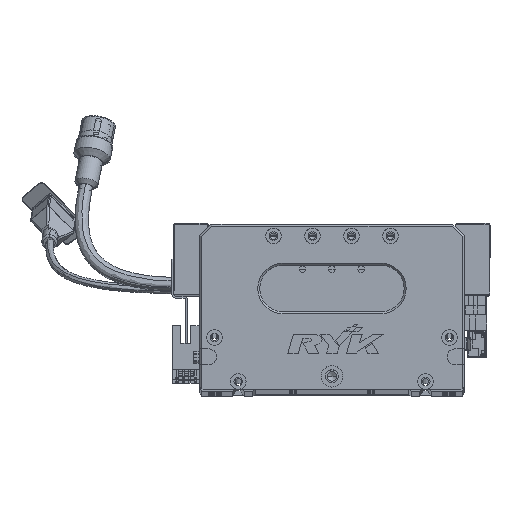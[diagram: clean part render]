
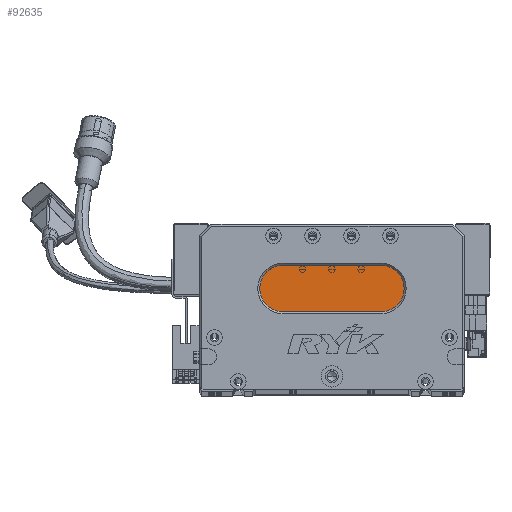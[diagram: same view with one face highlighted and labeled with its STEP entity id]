
A CAD part, top view. The second image highlights one B-rep face of the part: STEP entity #92635.
In plain terms, the highlighted planar face has unit normal (0, 0, 1) as drawn and (0, 0, -1) by its records, which use the part's own axes.
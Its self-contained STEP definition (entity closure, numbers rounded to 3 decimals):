
#1544 = EDGE_CURVE ( 'NONE', #9964, #46368, #20378, .T. ) ;
#6708 = DIRECTION ( 'NONE',  ( -1., 0., 0. ) ) ;
#9589 = CIRCLE ( 'NONE', #44923, 12. ) ;
#9964 = VERTEX_POINT ( 'NONE', #75752 ) ;
#20378 = CIRCLE ( 'NONE', #95619, 12. ) ;
#28516 = VECTOR ( 'NONE', #40108, 1000. ) ;
#30000 = DIRECTION ( 'NONE',  ( -1., 0., 0. ) ) ;
#32858 = CARTESIAN_POINT ( 'NONE',  ( 43., 52., 13. ) ) ;
#34529 = AXIS2_PLACEMENT_3D ( 'NONE', #54291, #101639, #30000 ) ;
#39068 = CARTESIAN_POINT ( 'NONE',  ( 43., 64., 13. ) ) ;
#40108 = DIRECTION ( 'NONE',  ( -1., 0., 0. ) ) ;
#40914 = EDGE_CURVE ( 'NONE', #43502, #75941, #103188, .T. ) ;
#40952 = FACE_OUTER_BOUND ( 'NONE', #42109, .T. ) ;
#42109 = EDGE_LOOP ( 'NONE', ( #55769, #88789, #97032, #55977, #68361 ) ) ;
#42416 = CIRCLE ( 'NONE', #74117, 12. ) ;
#43502 = VERTEX_POINT ( 'NONE', #46199 ) ;
#44923 = AXIS2_PLACEMENT_3D ( 'NONE', #70909, #102354, #6708 ) ;
#46199 = CARTESIAN_POINT ( 'NONE',  ( 93., 40., 13. ) ) ;
#46368 = VERTEX_POINT ( 'NONE', #39068 ) ;
#47009 = DIRECTION ( 'NONE',  ( 0., 0., -1. ) ) ;
#51406 = CARTESIAN_POINT ( 'NONE',  ( 43., 40., 13. ) ) ;
#53345 = DIRECTION ( 'NONE',  ( 1., 0., 0. ) ) ;
#54291 = CARTESIAN_POINT ( 'NONE',  ( 93., 52., 13. ) ) ;
#55769 = ORIENTED_EDGE ( 'NONE', *, *, #68092, .T. ) ;
#55800 = DIRECTION ( 'NONE',  ( 0., 0., -1. ) ) ;
#55977 = ORIENTED_EDGE ( 'NONE', *, *, #1544, .T. ) ;
#56136 = DIRECTION ( 'NONE',  ( -1., 0., 0. ) ) ;
#62396 = EDGE_CURVE ( 'NONE', #46368, #84513, #102693, .T. ) ;
#62971 = DIRECTION ( 'NONE',  ( -1., 0., 0. ) ) ;
#67870 = VECTOR ( 'NONE', #53345, 1000. ) ;
#68092 = EDGE_CURVE ( 'NONE', #84513, #43502, #42416, .T. ) ;
#68361 = ORIENTED_EDGE ( 'NONE', *, *, #62396, .T. ) ;
#70909 = CARTESIAN_POINT ( 'NONE',  ( 43., 52., 13. ) ) ;
#71974 = CARTESIAN_POINT ( 'NONE',  ( 93., 40., 13. ) ) ;
#74117 = AXIS2_PLACEMENT_3D ( 'NONE', #103052, #47009, #62971 ) ;
#75752 = CARTESIAN_POINT ( 'NONE',  ( 31., 52., 13. ) ) ;
#75941 = VERTEX_POINT ( 'NONE', #51406 ) ;
#77885 = PLANE ( 'NONE',  #34529 ) ;
#84513 = VERTEX_POINT ( 'NONE', #101723 ) ;
#88789 = ORIENTED_EDGE ( 'NONE', *, *, #40914, .T. ) ;
#92387 = CARTESIAN_POINT ( 'NONE',  ( 93., 64., 13. ) ) ;
#92635 = ADVANCED_FACE ( 'NONE', ( #40952 ), #77885, .T. ) ;
#95619 = AXIS2_PLACEMENT_3D ( 'NONE', #32858, #55800, #56136 ) ;
#97032 = ORIENTED_EDGE ( 'NONE', *, *, #102571, .T. ) ;
#101639 = DIRECTION ( 'NONE',  ( 0., 0., -1. ) ) ;
#101723 = CARTESIAN_POINT ( 'NONE',  ( 93., 64., 13. ) ) ;
#102354 = DIRECTION ( 'NONE',  ( 0., 0., -1. ) ) ;
#102571 = EDGE_CURVE ( 'NONE', #75941, #9964, #9589, .T. ) ;
#102693 = LINE ( 'NONE', #92387, #67870 ) ;
#103052 = CARTESIAN_POINT ( 'NONE',  ( 93., 52., 13. ) ) ;
#103188 = LINE ( 'NONE', #71974, #28516 ) ;
